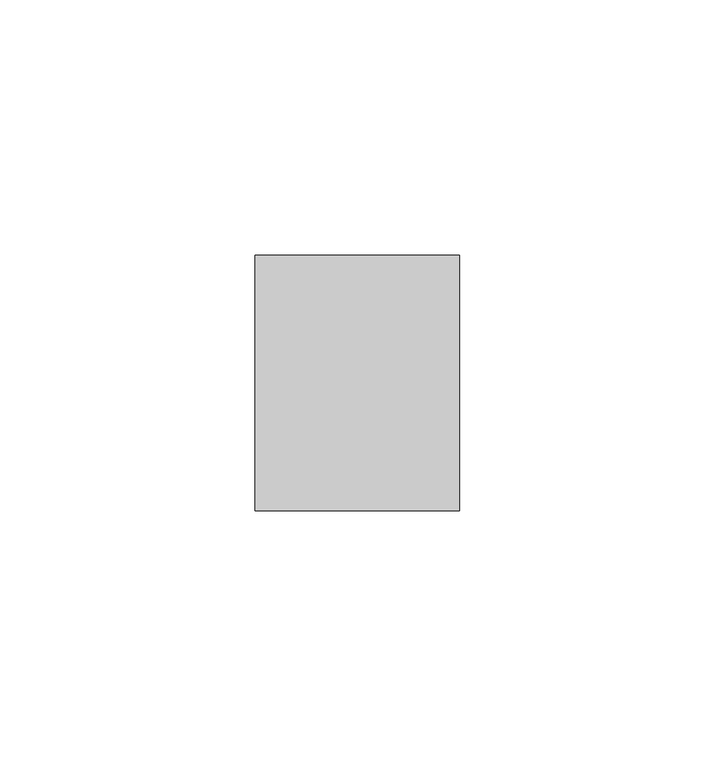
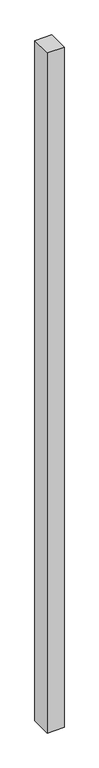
"""IFC4 building model written with IfcOpenShell, lengths in millimetres: member geometry, Прямоугольный импост : 40х50."""

from ifc_helpers import new_model, si_unit, frame, origin, place, context, project, spatial, polyline, outline, extrude, source, transform, mapped, element, save


def member_3fb5453b(model_context):
    return source(origin(), model_context, "Body", "SweptSolid", [
        extrude(outline(polyline([(0.0, 50.0), (0.0, 0.0), (-40.0, 0.0), (-40.0, 50.0), (0.0, 50.0)])), frame((0.0, 0.0, -1700.0), z_axis=(0.0, 0.0, 1.0), x_axis=(1.0, 0.0, 0.0)), (0.0, 0.0, 1.0), 1700.0),
    ])


if __name__ == "__main__":
    model = new_model("IFC4")
    model_context = context("Model", 3, world=origin())
    ifc_project = project(units=[si_unit("LENGTHUNIT", "METRE", prefix="MILLI")], contexts=[model_context])
    site = spatial("IfcSite", under=ifc_project)
    building = spatial("IfcBuilding", under=site)
    placement = place(None, origin())
    member_shape = member_3fb5453b(model_context)
    element("IfcMember", 1, ObjectType="Прямоугольный импост : 40х50", at=placement, inside=building, context=model_context, shape_type="MappedRepresentation", body=[
        mapped(member_shape, transform((0.0, 0.0, 0.0), x_axis=(1.0, 0.0, 0.0), y_axis=(0.0, 1.0, 0.0), z_axis=(0.0, 0.0, 1.0))),
    ])
    save(model, "model.ifc")
